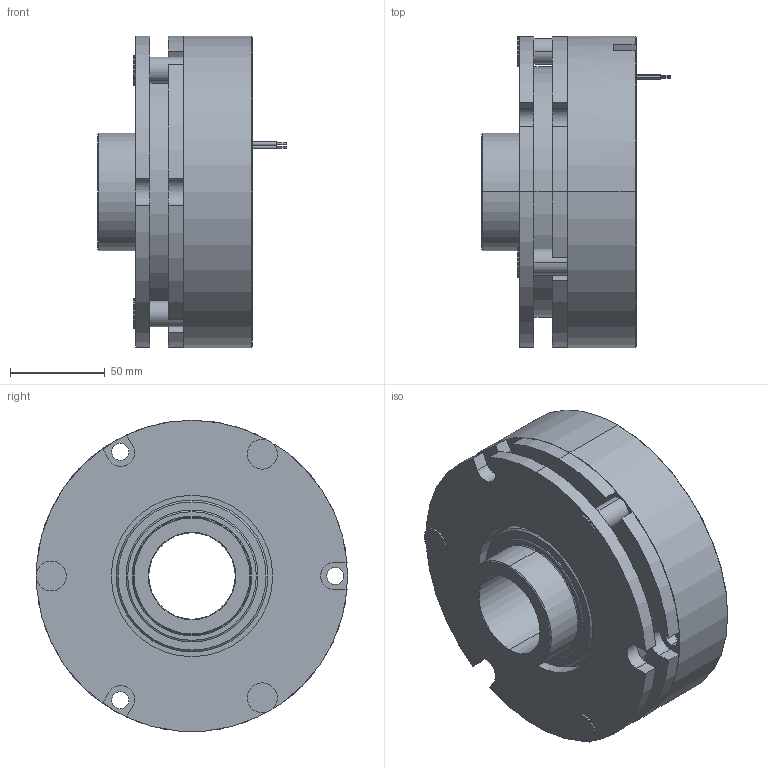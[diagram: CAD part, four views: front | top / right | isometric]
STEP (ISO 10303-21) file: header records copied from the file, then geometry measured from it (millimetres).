
FILE_DESCRIPTION (( 'STEP AP203' ), '1' );
FILE_NAME ('KS_10016A00_Customer_3D_model_19.12.17.STEP', '2018-01-16T12:12:54', ( '' ), ( '' ), 'SwSTEP 2.0', 'SolidWorks 2015', '' );
FILE_SCHEMA (( 'CONFIG_CONTROL_DESIGN' ));
Length unit declared in the file: millimetre
Products named in the file (1): KS_10016A00_Customer_3D_model_19.12.17
Bounding box: 99.25 x 164 x 164 mm (x, y, z)
Volume: 1106974.5 mm3; surface area: 146238.1 mm2
Topology: 1 solids, 1 shells, 141 faces, 337 edges, 218 vertices
Faces by surface type: cylinder 77, plane 43, cone 19, torus 2
Entity records: 4257 total; most frequent: DIRECTION 798, CARTESIAN_POINT 703, ORIENTED_EDGE 674, EDGE_CURVE 337, AXIS2_PLACEMENT_3D 321, VERTEX_POINT 218, CIRCLE 179, EDGE_LOOP 175
